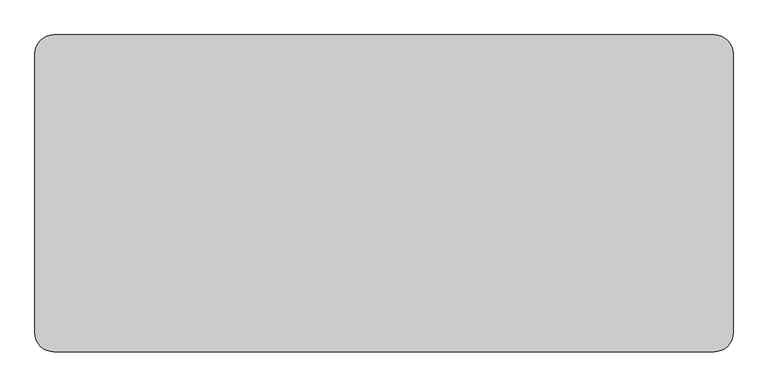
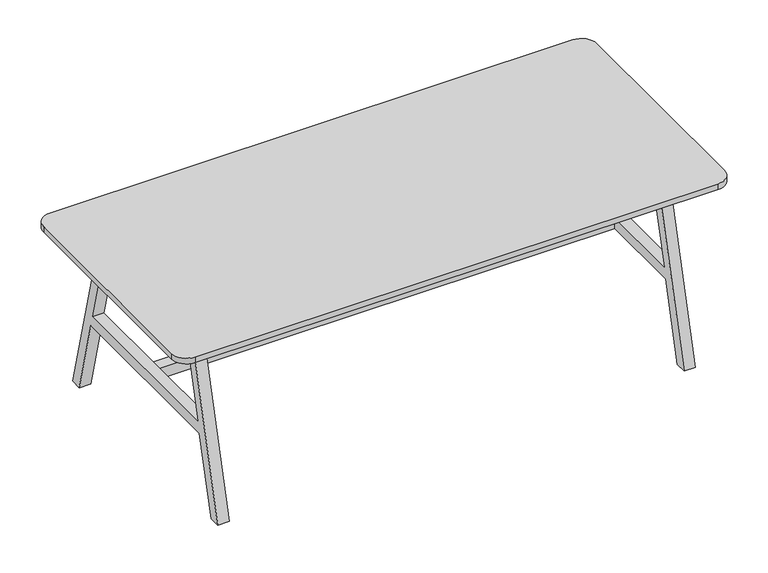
"""IFC4 building model written with IfcOpenShell, lengths in millimetres: furniture geometry, Furniture-Chair-LyndonDesign-Agent_AGE_19 : Furniture-Chair-LyndonDesign-Agent_AGE_19."""

from ifc_helpers import new_model, si_unit, point, frame, frame_2d, origin, place, context, project, spatial, polyline, circle_curve, trimmed, segment, composite_curve, outline, extrude, source, transform, mapped, element, save


def furniture_e7b2d70b(model_context):
    return source(origin(), model_context, "Body", "SweptSolid", [
        extrude(outline(composite_curve([segment(trimmed(circle_curve(frame_2d((375.9053878, 719.9999819)), 43.9999938), [point((419.7231878, 716.0))], [point((375.9053878, 675.9999881))], False, "CARTESIAN"), True, "CONTINUOUS"), segment(polyline([(375.9053878, 675.9999881), (340.0368772, 675.9999881)]), True, "CONTINUOUS"), segment(trimmed(circle_curve(frame_2d((340.0368772, 663.8271245)), 12.1728635), [point((340.0368772, 675.9999881))], [point((327.8640137, 663.8271245))], True, "CARTESIAN"), True, "CONTINUOUS"), segment(polyline([(327.8640137, 663.8271245), (500.1016206, 0.0), (454.4116875, 0.0), (373.9766195, 309.999989), (-373.9766195, 309.999989), (-454.4116875, 0.0), (-500.1016206, 0.0), (-328.4272583, 661.6563034)]), True, "CONTINUOUS"), segment(trimmed(circle_curve(frame_2d((-339.5242557, 664.5355474)), 11.4644406), [point((-328.4272583, 661.6563034))], [point((-339.5242557, 675.9999881))], True, "CARTESIAN"), True, "CONTINUOUS"), segment(polyline([(-339.5242557, 675.9999881), (-375.9053797, 675.9999881)]), True, "CONTINUOUS"), segment(trimmed(circle_curve(frame_2d((-375.9053797, 719.9999908)), 44.0000027), [point((-375.9053797, 675.9999881))], [point((-419.7231878, 716.0))], False, "CARTESIAN"), True, "CONTINUOUS"), segment(polyline([(-419.7231878, 716.0), (419.7231878, 716.0)]), True, "CONTINUOUS")], self_intersect=False), holes=[composite_curve([segment(trimmed(circle_curve(frame_2d((-265.405383, 658.4119913)), 17.5879967), [point((-265.405383, 675.9999881))], [point((-282.3844228, 663.0000012))], True, "CARTESIAN"), True, "CONTINUOUS"), segment(polyline([(-282.3844228, 663.0000012), (-362.3005609, 354.999989), (362.3005609, 354.999989), (282.3844228, 663.0000012)]), True, "CONTINUOUS"), segment(trimmed(circle_curve(frame_2d((265.579748, 658.6397263)), 17.3611374), [point((282.3844228, 663.0000012))], [point((265.4053799, 675.9999881))], True, "CARTESIAN"), True, "CONTINUOUS"), segment(polyline([(265.4053799, 675.9999881), (-265.405383, 675.9999881)]), True, "CONTINUOUS")], self_intersect=False)]), frame((-949.9017474, 0.0, 0.0), z_axis=(1.0, 0.0, 0.0), x_axis=(0.0, 1.0, 0.0)), (0.0, 0.0, 1.0), 45.0),
        extrude(outline(composite_curve([segment(trimmed(circle_curve(frame_2d((375.9053878, 719.9999819)), 43.9999938), [point((419.7231878, 716.0))], [point((375.9053878, 675.9999881))], False, "CARTESIAN"), True, "CONTINUOUS"), segment(polyline([(375.9053878, 675.9999881), (340.0368772, 675.9999881)]), True, "CONTINUOUS"), segment(trimmed(circle_curve(frame_2d((340.0368772, 663.8271245)), 12.1728635), [point((340.0368772, 675.9999881))], [point((327.8640137, 663.8271245))], True, "CARTESIAN"), True, "CONTINUOUS"), segment(polyline([(327.8640137, 663.8271245), (500.1016206, 0.0), (454.4116875, 0.0), (373.9766195, 309.999989), (-373.9766195, 309.999989), (-454.4116875, 0.0), (-500.1016206, 0.0), (-328.4272583, 661.6563034)]), True, "CONTINUOUS"), segment(trimmed(circle_curve(frame_2d((-339.5242557, 664.5355474)), 11.4644406), [point((-328.4272583, 661.6563034))], [point((-339.5242557, 675.9999881))], True, "CARTESIAN"), True, "CONTINUOUS"), segment(polyline([(-339.5242557, 675.9999881), (-375.9053797, 675.9999881)]), True, "CONTINUOUS"), segment(trimmed(circle_curve(frame_2d((-375.9053797, 719.9999908)), 44.0000027), [point((-375.9053797, 675.9999881))], [point((-419.7231878, 716.0))], False, "CARTESIAN"), True, "CONTINUOUS"), segment(polyline([(-419.7231878, 716.0), (419.7231878, 716.0)]), True, "CONTINUOUS")], self_intersect=False), holes=[composite_curve([segment(trimmed(circle_curve(frame_2d((-265.405383, 658.4119913)), 17.5879967), [point((-265.405383, 675.9999881))], [point((-282.3844228, 663.0000012))], True, "CARTESIAN"), True, "CONTINUOUS"), segment(polyline([(-282.3844228, 663.0000012), (-362.3005609, 354.999989), (362.3005609, 354.999989), (282.3844228, 663.0000012)]), True, "CONTINUOUS"), segment(trimmed(circle_curve(frame_2d((265.579748, 658.6397263)), 17.3611374), [point((282.3844228, 663.0000012))], [point((265.4053799, 675.9999881))], True, "CARTESIAN"), True, "CONTINUOUS"), segment(polyline([(265.4053799, 675.9999881), (-265.405383, 675.9999881)]), True, "CONTINUOUS")], self_intersect=False)]), frame((904.9017474, 0.0, 0.0), z_axis=(1.0, 0.0, 0.0), x_axis=(0.0, 1.0, 0.0)), (0.0, 0.0, 1.0), 45.0),
        extrude(outline(polyline([(324.2925259, 636.4629989), (300.657585, 632.292918), (285.8977679, 716.0), (310.2680065, 716.0), (324.2925259, 636.4629989)])), frame((-904.9102614, 0.0, 0.0), z_axis=(1.0, 0.0, 0.0), x_axis=(0.0, 1.0, 0.0)), (0.0, 0.0, 1.0), 1809.8120088),
        extrude(outline(polyline([(-324.2925259, 636.4629989), (-310.2680065, 716.0), (-285.8977679, 716.0), (-300.657585, 632.292918), (-324.2925259, 636.4629989)])), frame((-904.9102614, 0.0, 0.0), z_axis=(1.0, 0.0, 0.0), x_axis=(0.0, 1.0, 0.0)), (0.0, 0.0, 1.0), 1809.8120088),
        extrude(outline(composite_curve([segment(polyline([(-1040.0, 500.0), (1040.0, 500.0)]), True, "CONTINUOUS"), segment(trimmed(circle_curve(frame_2d((1040.0, 440.0)), 60.0), [point((1040.0, 500.0))], [point((1100.0, 440.0))], False, "CARTESIAN"), True, "CONTINUOUS"), segment(polyline([(1100.0, 440.0), (1100.0, -440.0)]), True, "CONTINUOUS"), segment(trimmed(circle_curve(frame_2d((1040.0, -440.0)), 60.0), [point((1100.0, -440.0))], [point((1040.0, -500.0))], False, "CARTESIAN"), True, "CONTINUOUS"), segment(polyline([(1040.0, -500.0), (-1040.0, -500.0)]), True, "CONTINUOUS"), segment(trimmed(circle_curve(frame_2d((-1040.0, -440.0)), 60.0), [point((-1040.0, -500.0))], [point((-1100.0, -440.0))], False, "CARTESIAN"), True, "CONTINUOUS"), segment(polyline([(-1100.0, -440.0), (-1100.0, 440.0)]), True, "CONTINUOUS"), segment(trimmed(circle_curve(frame_2d((-1040.0, 440.0)), 60.0), [point((-1100.0, 440.0))], [point((-1040.0, 500.0))], False, "CARTESIAN"), True, "CONTINUOUS")], self_intersect=False)), frame((0.0, 0.0, 716.0), z_axis=(0.0, 0.0, 1.0), x_axis=(1.0, 0.0, 0.0)), (0.0, 0.0, 1.0), 24.0),
        extrude(outline(polyline([(904.9017474, -22.5), (-904.9102614, -22.5), (-904.9102614, 22.5), (904.9017474, 22.5), (904.9017474, -22.5)])), frame((0.0, 0.0, 309.999989), z_axis=(0.0, 0.0, 1.0), x_axis=(1.0, 0.0, 0.0)), (0.0, 0.0, 1.0), 45.0),
    ])


if __name__ == "__main__":
    model = new_model("IFC4")
    model_context = context("Model", 3, world=origin())
    ifc_project = project(units=[si_unit("LENGTHUNIT", "METRE", prefix="MILLI")], contexts=[model_context])
    site = spatial("IfcSite", under=ifc_project)
    building = spatial("IfcBuilding", under=site)
    placement = place(None, origin())
    furniture_shape = furniture_e7b2d70b(model_context)
    element("IfcFurniture", 1, ObjectType="Furniture-Chair-LyndonDesign-Agent_AGE_19 : Furniture-Chair-LyndonDesign-Agent_AGE_19", at=placement, inside=building, context=model_context, shape_type="MappedRepresentation", body=[
        mapped(furniture_shape, transform((0.0, 0.0, 0.0), x_axis=(1.0, 0.0, 0.0), y_axis=(0.0, 1.0, 0.0), z_axis=(0.0, 0.0, 1.0))),
    ])
    save(model, "model.ifc")
